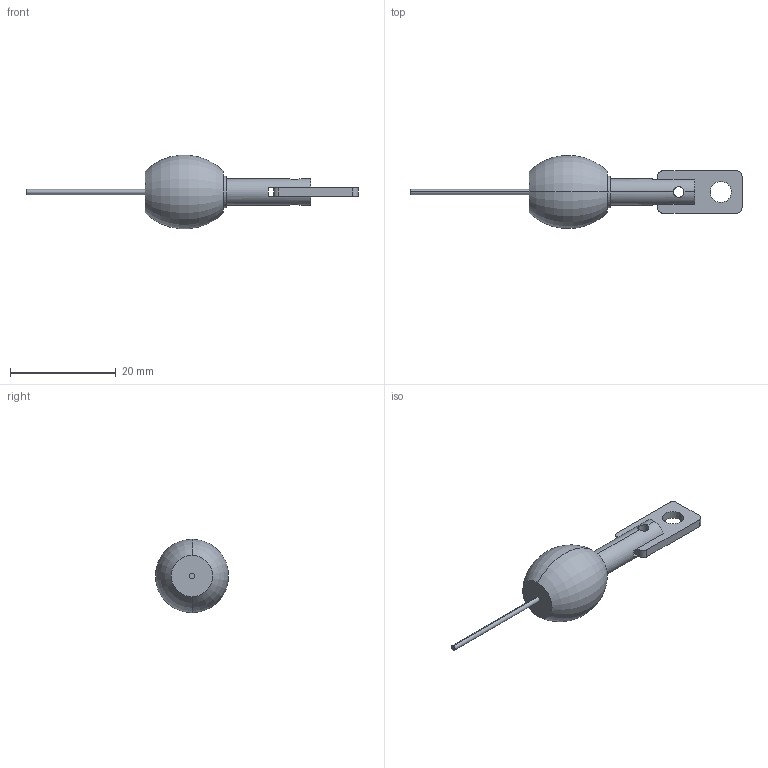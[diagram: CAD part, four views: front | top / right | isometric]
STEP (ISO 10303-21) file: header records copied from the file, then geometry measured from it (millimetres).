
FILE_DESCRIPTION (( 'STEP AP214' ), '1' );
FILE_NAME ('DL-07ƒtƒbƒN_Assem.STEP', '2024-06-21T00:04:56', ( '' ), ( '' ), 'SwSTEP 2.0', 'SolidWorks 2023', '' );
FILE_SCHEMA (( 'AUTOMOTIVE_DESIGN' ));
Length unit declared in the file: millimetre
Products named in the file (3): DL-07_Part4; DL-07_Part3; DL-07フック_Assem
Assembly tree (2 placements, depth 2):
  DL-07フック_Assem
    DL-07_Part3
    DL-07_Part4
Bounding box: 62.93 x 13.82 x 13.92 mm (x, y, z)
Volume: 2200.7 mm3; surface area: 1391.3 mm2
Topology: 3 solids, 3 shells, 33 faces, 86 edges, 56 vertices
Faces by surface type: plane 17, cylinder 14, torus 2
Entity records: 1195 total; most frequent: CARTESIAN_POINT 248, DIRECTION 196, ORIENTED_EDGE 172, EDGE_CURVE 86, AXIS2_PLACEMENT_3D 76, VERTEX_POINT 56, VECTOR 44, LINE 44
